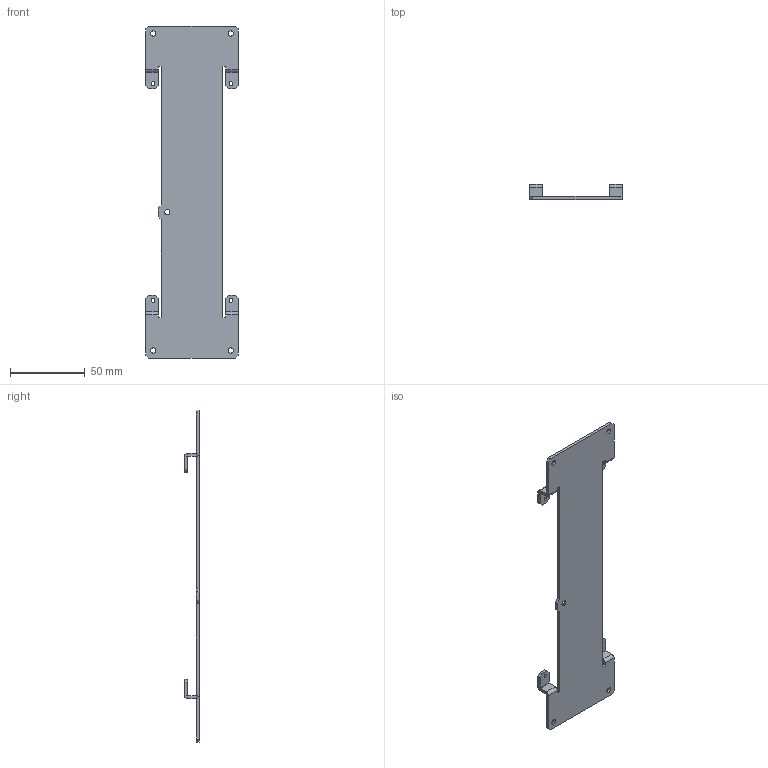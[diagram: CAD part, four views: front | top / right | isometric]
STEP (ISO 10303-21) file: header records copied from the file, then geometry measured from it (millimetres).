
FILE_DESCRIPTION (( 'STEP AP214' ), '1' );
FILE_NAME ('d-18_outline.STEP', '2023-11-06T06:42:47', ( '' ), ( '' ), 'SwSTEP 2.0', 'SolidWorks 2020', '' );
FILE_SCHEMA (( 'AUTOMOTIVE_DESIGN' ));
Length unit declared in the file: millimetre
Products named in the file (1): d-18_outline
Bounding box: 62 x 10 x 222 mm (x, y, z)
Volume: 21806.5 mm3; surface area: 23535.5 mm2
Topology: 1 solids, 1 shells, 237 faces, 618 edges, 390 vertices
Faces by surface type: plane 172, cylinder 34, bspline 29, cone 2
Entity records: 10397 total; most frequent: CARTESIAN_POINT 2075, ORIENTED_EDGE 1236, DIRECTION 1048, EDGE_CURVE 618, LINE 490, VECTOR 490, VERTEX_POINT 390, AXIS2_PLACEMENT_3D 279
